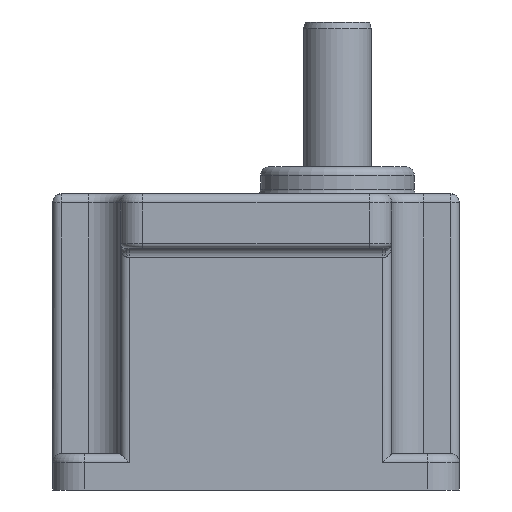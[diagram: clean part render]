
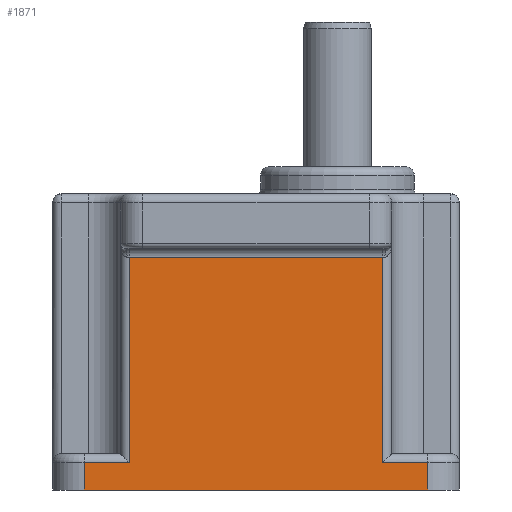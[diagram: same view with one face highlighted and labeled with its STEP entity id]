
A CAD part, left-side view. The second image highlights one B-rep face of the part: STEP entity #1871.
In plain terms, the highlighted planar face has unit normal (-1, 0, 0).
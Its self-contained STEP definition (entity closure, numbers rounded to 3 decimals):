
#1614=CARTESIAN_POINT('',(0.0,73.0,51.5));
#1615=VERTEX_POINT('',#1614);
#1640=CARTESIAN_POINT('',(0.0,17.0,51.5));
#1641=VERTEX_POINT('',#1640);
#1651=CARTESIAN_POINT('',(0.0,73.0,51.5));
#1652=DIRECTION('',(0.0,-1.0,0.0));
#1653=VECTOR('',#1652,56.0);
#1654=LINE('',#1651,#1653);
#1655=EDGE_CURVE('',#1615,#1641,#1654,.T.);
#1790=CARTESIAN_POINT('',(0.0,17.0,6.));
#1791=VERTEX_POINT('',#1790);
#1792=CARTESIAN_POINT('',(0.0,17.0,6.));
#1793=DIRECTION('',(0.0,0.0,1.0));
#1794=VECTOR('',#1793,45.5);
#1795=LINE('',#1792,#1794);
#1796=EDGE_CURVE('',#1791,#1641,#1795,.T.);
#1816=CARTESIAN_POINT('',(0.0,0.0,0.0));
#1817=DIRECTION('',(-1.0,0.0,0.0));
#1818=DIRECTION('',(0.0,0.0,1.0));
#1819=AXIS2_PLACEMENT_3D('',#1816,#1817,#1818);
#1820=PLANE('',#1819);
#1821=ORIENTED_EDGE('',*,*,#1655,.F.);
#1822=CARTESIAN_POINT('',(0.0,73.0,6.));
#1823=VERTEX_POINT('',#1822);
#1824=CARTESIAN_POINT('',(0.0,73.0,6.));
#1825=DIRECTION('',(0.0,0.0,1.0));
#1826=VECTOR('',#1825,45.5);
#1827=LINE('',#1824,#1826);
#1828=EDGE_CURVE('',#1823,#1615,#1827,.T.);
#1829=ORIENTED_EDGE('',*,*,#1828,.F.);
#1830=CARTESIAN_POINT('',(0.0,83.0,6.));
#1831=VERTEX_POINT('',#1830);
#1832=CARTESIAN_POINT('',(0.0,83.0,6.));
#1833=DIRECTION('',(0.0,-1.0,0.0));
#1834=VECTOR('',#1833,10.0);
#1835=LINE('',#1832,#1834);
#1836=EDGE_CURVE('',#1831,#1823,#1835,.T.);
#1837=ORIENTED_EDGE('',*,*,#1836,.F.);
#1838=CARTESIAN_POINT('',(0.0,83.0,0.0));
#1839=VERTEX_POINT('',#1838);
#1840=CARTESIAN_POINT('',(0.0,83.0,0.0));
#1841=DIRECTION('',(0.0,0.0,1.0));
#1842=VECTOR('',#1841,6.);
#1843=LINE('',#1840,#1842);
#1844=EDGE_CURVE('',#1839,#1831,#1843,.T.);
#1845=ORIENTED_EDGE('',*,*,#1844,.F.);
#1846=CARTESIAN_POINT('',(0.0,7.,0.0));
#1847=VERTEX_POINT('',#1846);
#1848=CARTESIAN_POINT('',(0.0,83.0,0.0));
#1849=DIRECTION('',(0.0,-1.0,0.0));
#1850=VECTOR('',#1849,76.0);
#1851=LINE('',#1848,#1850);
#1852=EDGE_CURVE('',#1839,#1847,#1851,.T.);
#1853=ORIENTED_EDGE('',*,*,#1852,.T.);
#1854=CARTESIAN_POINT('',(0.0,7.,6.));
#1855=VERTEX_POINT('',#1854);
#1856=CARTESIAN_POINT('',(0.0,7.,6.));
#1857=DIRECTION('',(0.0,0.0,-1.0));
#1858=VECTOR('',#1857,6.);
#1859=LINE('',#1856,#1858);
#1860=EDGE_CURVE('',#1855,#1847,#1859,.T.);
#1861=ORIENTED_EDGE('',*,*,#1860,.F.);
#1862=CARTESIAN_POINT('',(0.0,17.0,6.));
#1863=DIRECTION('',(0.0,-1.0,0.0));
#1864=VECTOR('',#1863,10.);
#1865=LINE('',#1862,#1864);
#1866=EDGE_CURVE('',#1791,#1855,#1865,.T.);
#1867=ORIENTED_EDGE('',*,*,#1866,.F.);
#1868=ORIENTED_EDGE('',*,*,#1796,.T.);
#1869=EDGE_LOOP('',(#1821,#1829,#1837,#1845,#1853,#1861,#1867,#1868));
#1870=FACE_OUTER_BOUND('',#1869,.T.);
#1871=ADVANCED_FACE('',(#1870),#1820,.T.);
